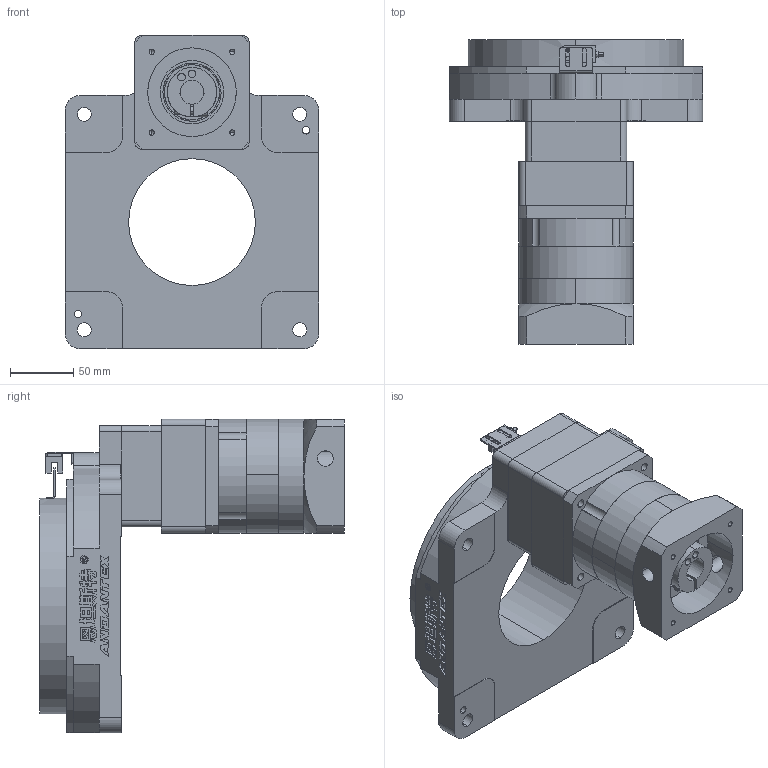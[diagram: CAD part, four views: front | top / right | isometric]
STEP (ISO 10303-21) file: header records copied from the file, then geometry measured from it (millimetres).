
FILE_DESCRIPTION(('Open CASCADE Model'),'2;1');
FILE_NAME('Open CASCADE Shape Model','2026-10-11T02:47:28',('Author'),( 'Open CASCADE'),'Open CASCADE STEP processor 7.8','Open CASCADE 7.8' ,'Unknown');
FILE_SCHEMA(('AUTOMOTIVE_DESIGN { 1 0 10303 214 1 1 1 1 }'));
Length unit declared in the file: millimetre
Products named in the file (4): NT200-F-10-PRF90-L1-M6(配750W伺服 输入19-70-90-M5); NT200-F-10-PRF90-L1-M6(配750W伺服 输入19-70-90-M5)-01; NT200-F-10-PRF90-L1-M6(配750W伺服 输入19-70-90-M5)-02; NT200-F-10-PRF90-L1-M6(配750W伺服 输入19-70-90-M5)-03
Assembly tree (3 placements, depth 2):
  NT200-F-10-PRF90-L1-M6(配750W伺服 输入19-70-90-M5)
    NT200-F-10-PRF90-L1-M6(配750W伺服 输入19-70-90-M5)-01
    NT200-F-10-PRF90-L1-M6(配750W伺服 输入19-70-90-M5)-02
    NT200-F-10-PRF90-L1-M6(配750W伺服 输入19-70-90-M5)-03
Bounding box: 200 x 240.5 x 247.5 mm (x, y, z)
Volume: 2640590.8 mm3; surface area: 341345.5 mm2
Topology: 12 solids, 14 shells, 1470 faces, 4062 edges, 2660 vertices
Faces by surface type: plane 928, cylinder 348, bspline 140, cone 54
Entity records: 132310 total; most frequent: CARTESIAN_POINT 56736, DIRECTION 12644, ORIENTED_EDGE 8024, PCURVE 8024, DEFINITIONAL_REPRESENTATION 8024, LINE 7849, VECTOR 7849, EDGE_CURVE 4012
